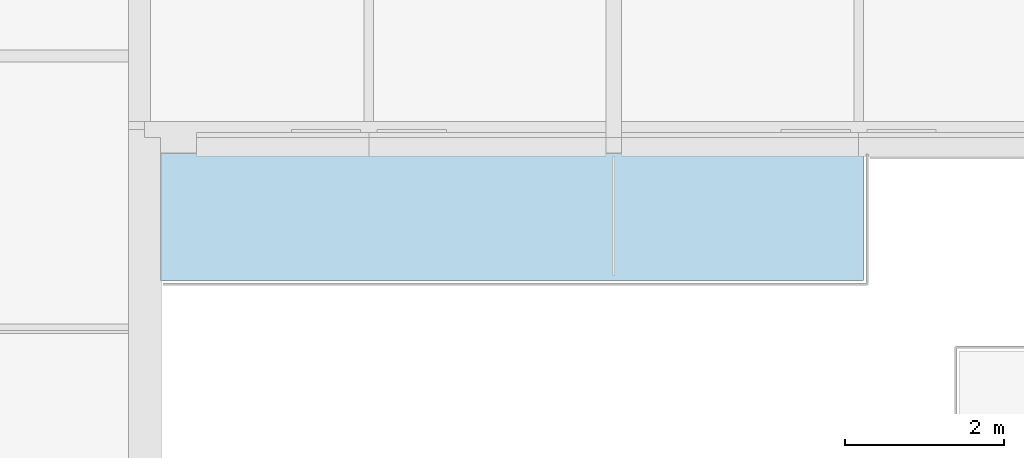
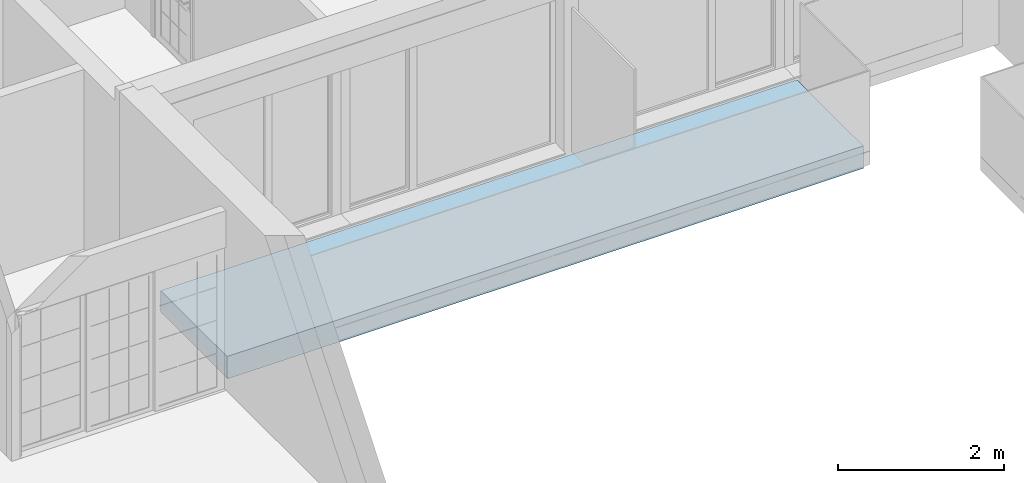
# One storey, part 2 of 67: 1 slab.
"""IFC2X3 building model written with IfcOpenShell, lengths in millimetres."""

from ifc_helpers import new_model, entity, si_unit, converted_unit, derived_unit, money_unit, direction, frame, origin_with_axes, place, context, subcontext, project, spatial, faceted_brep, material, material_list, type_object, element, save


model = new_model("IFC2X3")

# Units and contexts
model_context = context("Model", 3, precision=0.01, world=origin_with_axes(), true_north=direction((0.34421633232, 0.938890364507)))
body_context = subcontext(model_context, "Body", "Model", "MODEL_VIEW")
ifc_project = project(units=[si_unit("LENGTHUNIT", "METRE", prefix="MILLI"), si_unit("AREAUNIT", "SQUARE_METRE"), si_unit("VOLUMEUNIT", "CUBIC_METRE"), converted_unit("PLANEANGLEUNIT", "DEGREE", entity("IfcPlaneAngleMeasure", 0.0174532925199), si_unit("PLANEANGLEUNIT", "RADIAN"), dimensions=[0, 0, 0, 0, 0, 0, 0]), si_unit("SOLIDANGLEUNIT", "STERADIAN"), money_unit("USD"), converted_unit("TIMEUNIT", "Year", entity("IfcTimeMeasure", 31556926.0), si_unit("TIMEUNIT", "SECOND"), dimensions=[0, 0, 1, 0, 0, 0, 0]), si_unit("MASSUNIT", "GRAM", prefix="KILO"), si_unit("THERMODYNAMICTEMPERATUREUNIT", "DEGREE_CELSIUS"), si_unit("LUMINOUSINTENSITYUNIT", "LUMEN"), si_unit("ENERGYUNIT", "JOULE", prefix="MEGA"), derived_unit("THERMALCONDUCTANCEUNIT", [(si_unit("POWERUNIT", "WATT"), 1), (si_unit("LENGTHUNIT", "METRE"), -1), (si_unit("THERMODYNAMICTEMPERATUREUNIT", "KELVIN"), -1)]), derived_unit("SPECIFICHEATCAPACITYUNIT", [(si_unit("ENERGYUNIT", "JOULE"), 1), (si_unit("MASSUNIT", "GRAM", prefix="KILO"), -1), (si_unit("THERMODYNAMICTEMPERATUREUNIT", "KELVIN"), -1)]), derived_unit("MASSDENSITYUNIT", [(si_unit("MASSUNIT", "GRAM", prefix="KILO"), 1), (si_unit("VOLUMEUNIT", "CUBIC_METRE"), -1)])], contexts=[model_context])

# Site, building, storey
site_placement = place(None, origin_with_axes())
site = spatial("IfcSite", under=ifc_project, at=site_placement, Name="USTRONIE MORSKIE", CompositionType="ELEMENT")
building_placement = place(site_placement, origin_with_axes())
building = spatial("IfcBuilding", under=site, at=building_placement, Name="Budynek", CompositionType="ELEMENT")
storey_placement = place(building_placement, frame((0.0, 0.0, 4000.0), z_axis=(0.0, 0.0, 1.0), x_axis=(1.0, 0.0, 0.0)))
storey = spatial("IfcBuildingStorey", under=building, at=storey_placement, Name="PIĘTRO 1", CompositionType="ELEMENT", Elevation=4000.0)

# Slab
ifc_material_1 = material(Name="Płytki okładzinowe")
ifc_material_2 = material(Name="Pustka powietrzna")
ifc_material_3 = material(Name="Membrana przeciwwilgociowa")
ifc_material_4 = material(Name="Beton konstrukcyjny B25")
ifc_material_5 = material(Name="Laminat")
ifc_material_list = material_list([ifc_material_1, ifc_material_2, ifc_material_3, ifc_material_4, ifc_material_5])
slab_type = type_object("IfcSlabType", Name="Balkony na HALFENACH 330", PredefinedType="FLOOR")
slab_placement = place(storey_placement, frame((396619.640549, 725001.198359, -50.0), z_axis=(0.0, 0.0, 1.0), x_axis=(1.0, 0.0, 0.0)))
element("IfcSlab", 1, at=slab_placement, inside=storey, type_object=slab_type, material=ifc_material_list, Name="P3", PredefinedType="FLOOR", context=body_context, shape_type="Brep", body=[
    faceted_brep([(0.0, 0.0, -25.0), (8838.26101984, 0.0, -25.0), (8838.26101984, 0.0, 0.0), (0.0, 0.0, 0.0), (-1.44800524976, 1599.99992117, -25.0), (8838.26101984, 1599.99992117, -25.0), (8838.26101984, 1599.99992117, 0.0), (-1.44800524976, 1599.99992117, 0.0)], [[[0, 1, 2, 3]], [[1, 0, 4, 5]], [[1, 5, 6, 2]], [[7, 3, 2, 6]], [[4, 0, 3, 7]], [[5, 4, 7, 6]]]),
    faceted_brep([(0.0, 0.0, -105.0), (8838.26101984, 0.0, -105.0), (8838.26101984, 0.0, -25.0), (0.0, 0.0, -25.0), (-1.44800524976, 1599.99992117, -105.0), (8838.26101984, 1599.99992117, -105.0), (8838.26101984, 1599.99992117, -25.0), (-1.44800524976, 1599.99992117, -25.0)], [[[0, 1, 2, 3]], [[1, 0, 4, 5]], [[1, 5, 6, 2]], [[7, 3, 2, 6]], [[4, 0, 3, 7]], [[5, 4, 7, 6]]]),
    faceted_brep([(0.0, 0.0, -110.0), (8838.26101984, 0.0, -110.0), (8838.26101984, 0.0, -105.0), (0.0, 0.0, -105.0), (-1.44800524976, 1599.99992117, -110.0), (8838.26101984, 1599.99992117, -110.0), (8838.26101984, 1599.99992117, -105.0), (-1.44800524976, 1599.99992117, -105.0)], [[[0, 1, 2, 3]], [[1, 0, 4, 5]], [[1, 5, 6, 2]], [[7, 3, 2, 6]], [[4, 0, 3, 7]], [[5, 4, 7, 6]]]),
    faceted_brep([(8838.26101984, 0.0, -310.0), (8838.26101984, 0.0, -110.0), (0.0, 0.0, -110.0), (0.0, 0.0, -310.0), (8838.26101984, 1599.99992117, -310.0), (8838.26101984, 1599.99992117, -110.0), (-1.44800524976, 1599.99992117, -110.0), (-1.44800524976, 1599.99992117, -310.0)], [[[0, 1, 2, 3]], [[4, 5, 1, 0]], [[2, 1, 5, 6]], [[3, 2, 6, 7]], [[3, 7, 4, 0]], [[7, 6, 5, 4]]]),
    faceted_brep([(8838.26101984, 1590.00067759, -330.0), (8838.26101984, 1590.00067759, -310.0), (8838.26101984, 0.0, -310.0), (8838.26101984, 0.0, -330.0), (8.2803702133, 1590.00067759, -310.0), (8.2803702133, 1590.00067759, -330.0), (8.2803702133, 0.0, -310.0), (8.2803702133, 0.0, -330.0)], [[[0, 1, 2, 3]], [[4, 1, 0, 5]], [[1, 4, 6, 2]], [[6, 7, 3, 2]], [[5, 0, 3, 7]], [[4, 5, 7, 6]]]),
])

save(model, "model.ifc")
